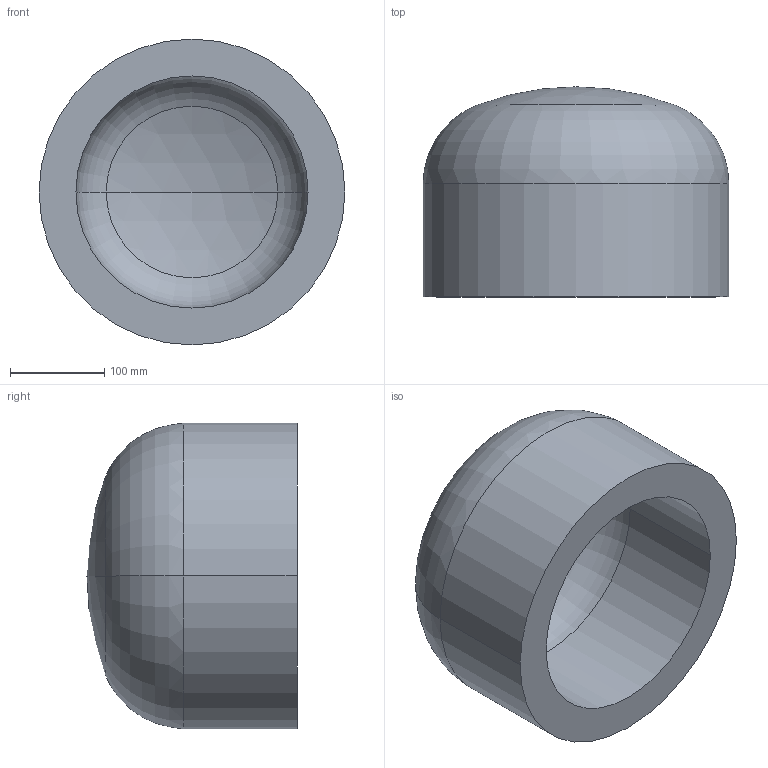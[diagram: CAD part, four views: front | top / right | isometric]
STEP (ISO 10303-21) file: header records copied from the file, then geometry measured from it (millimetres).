
FILE_DESCRIPTION (( 'STEP AP203' ), '1' );
FILE_NAME ('DIN 28013 Korbbogenform_-_Boden DIN 28013 - 323,9 x 120 - I - s=39.step', '2016-07-01T07:45:32', ( '' ), ( '' ), 'SwSTEP 2.0', 'SolidWorks 2013', '' );
FILE_SCHEMA (( 'CONFIG_CONTROL_DESIGN' ));
Length unit declared in the file: millimetre
Products named in the file (1): DIN 28013 Korbbogenform_-_Boden DIN 28013 - 323,9 x 120 - I - s=39
Bounding box: 323.9 x 222.49 x 323.9 mm (x, y, z)
Volume: 8034448.7 mm3; surface area: 450115.1 mm2
Topology: 1 solids, 1 shells, 13 faces, 24 edges, 14 vertices
Faces by surface type: torus 4, cylinder 4, sphere 4, plane 1
Entity records: 407 total; most frequent: DIRECTION 72, CARTESIAN_POINT 52, ORIENTED_EDGE 48, AXIS2_PLACEMENT_3D 34, EDGE_CURVE 24, CIRCLE 20, EDGE_LOOP 14, VERTEX_POINT 14
